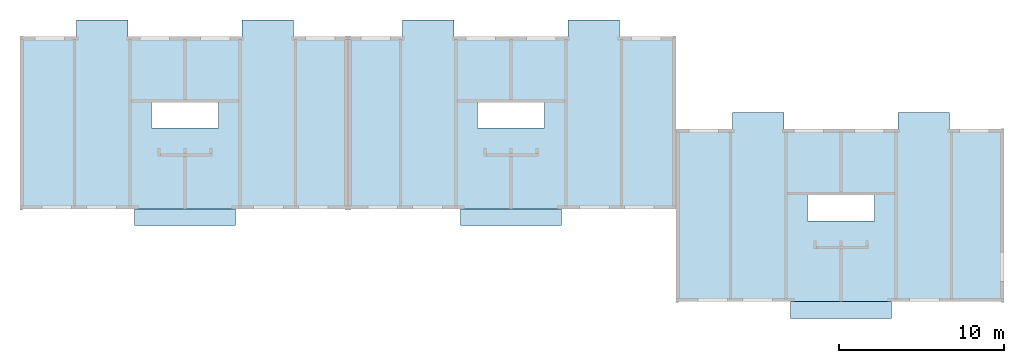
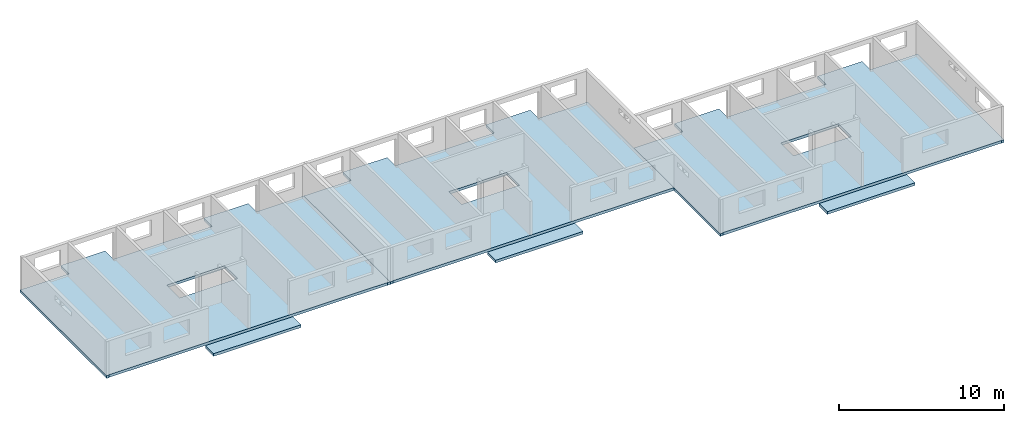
# One storey, part 1 of 9: 6 slabs, 3 openings.
"""IFC2X3 building model written with IfcOpenShell, lengths in millimetres."""

from ifc_helpers import new_model, entity, si_unit, converted_unit, frame, frame_2d, origin, origin_with_axes, place, context, subcontext, project, spatial, polyline, rectangle, outline, extrude, material, layer, layer_set, layer_usage, element, save


model = new_model("IFC2X3")

# Units and contexts
model_context = context("Model", 3, precision=1e-05, world=origin())
plan_context = context("Plan", 3, precision=1e-05, world=origin())
body_context = subcontext(model_context, "Body", "Model", "MODEL_VIEW")
ifc_project = project(units=[si_unit("LENGTHUNIT", "METRE", prefix="MILLI"), converted_unit("PLANEANGLEUNIT", "DEGREE", entity("IfcPlaneAngleMeasure", 0.0174532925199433), si_unit("PLANEANGLEUNIT", "RADIAN"), dimensions=[0, 0, 0, 0, 0, 0, 0]), si_unit("AREAUNIT", "SQUARE_METRE"), si_unit("VOLUMEUNIT", "CUBIC_METRE")], contexts=[model_context, plan_context])

# Building, storey
building_placement = place(None, origin())
building = spatial("IfcBuilding", under=ifc_project, at=building_placement, Name="Bâtiment", CompositionType="ELEMENT")
storey_placement = place(building_placement, frame((0.0, 0.0, 2700.0), z_axis=(0.0, 0.0, 1.0), x_axis=(1.0, 0.0, 0.0)))
storey = spatial("IfcBuildingStorey", under=building, at=storey_placement, Name="r+1", CompositionType="ELEMENT", Elevation=2700.0)

# Slab
ifc_material_1 = material()
ifc_layer_1 = layer(ifc_material_1, 200.0)
ifc_layer_set_1 = layer_set([ifc_layer_1])
ifc_layer_usage_1 = layer_usage(ifc_layer_set_1, "AXIS3", "POSITIVE", 0.0)
slab_1_placement = place(storey_placement, frame((46624.99999999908, -6579.922234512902, -400.0), z_axis=(0.0, 0.0, 1.0), x_axis=(1.0, 0.0, 0.0)))
element("IfcSlab", 1, at=slab_1_placement, inside=storey, material=ifc_layer_usage_1, PredefinedType="FLOOR", context=body_context, shape_type="SweptSolid", body=[
    extrude(rectangle(XDim=6120.000000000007, YDim=1000.085028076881, at=frame_2d((3060.000000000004, 500.0425140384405), x_axis=(1.0, 0.0))), origin_with_axes(), (0.0, 0.0, 1.0), 200.0),
])

# Slab, opening
ifc_material_2 = material()
ifc_layer_2 = layer(ifc_material_2, 200.0)
ifc_layer_set_2 = layer_set([ifc_layer_2])
ifc_layer_usage_2 = layer_usage(ifc_layer_set_2, "AXIS3", "POSITIVE", 0.0)
slab_2_placement = place(storey_placement, frame((39699.99999999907, -5599.999999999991, -200.0), z_axis=(0.0, 0.0, 1.0), x_axis=(1.0, 0.0, 0.0)))
slab_2 = element("IfcSlab", 2, at=slab_2_placement, inside=storey, material=ifc_layer_usage_2, PredefinedType="FLOOR", context=body_context, shape_type="SweptSolid", body=[
    extrude(outline(polyline([(0.0, 0.0), (180.0, 0.0), (180.0, 20.0775509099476), (6925.000003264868, 20.0775509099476), (13045.00000000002, 20.1627935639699), (19669.99999999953, 20.1627935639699), (19669.99999999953, 1.818989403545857e-12), (19849.99999999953, 1.818989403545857e-12), (19849.99999999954, 10490.07776548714), (19669.99999999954, 10490.07776548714), (19669.99999999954, 10470.07776548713), (16539.99999105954, 10470.07768919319), (16539.59862885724, 11470.07760604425), (13439.59868548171, 11470.07760604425), (13440.00000000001, 10470.07775475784), (6530.000000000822, 10470.07768919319), (6530.000094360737, 11470.07760604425), (3430.000000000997, 11470.07775475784), (3430.000000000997, 10470.07776548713), (180.0, 10470.07776548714), (7.275957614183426e-12, 10470.07776548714), (0.0, 0.0)])), origin_with_axes(), (0.0, 0.0, 1.0), 200.0),
])
opening_1_placement = place(slab_2_placement, frame((7959.999453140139, 4920.077765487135, 0.0), z_axis=(0.0, 0.0, 1.0), x_axis=(1.0, 0.0, 0.0)))
element("IfcOpeningElement", 3, at=opening_1_placement, cuts=slab_2, Name="Trémie dans dalle", ObjectType="Opening", context=body_context, shape_type="SweptSolid", body=[
    extrude(rectangle(XDim=4050.0, YDim=1550.0, at=frame_2d((2025.0, 775.0), x_axis=(1.0, 0.0))), origin_with_axes(), (0.0, 0.0, 1.0), 200.0),
])

# Slabs
ifc_material_3 = material()
ifc_layer_3 = layer(ifc_material_3, 200.0)
ifc_layer_set_3 = layer_set([ifc_layer_3])
ifc_layer_usage_3 = layer_usage(ifc_layer_set_3, "AXIS3", "POSITIVE", 0.0)
slab_3_placement = place(storey_placement, frame((6925.0, -979.922234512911, -400.0), z_axis=(0.0, 0.0, 1.0), x_axis=(1.0, 0.0, 0.0)))
element("IfcSlab", 4, at=slab_3_placement, inside=storey, material=ifc_layer_usage_3, PredefinedType="FLOOR", context=body_context, shape_type="SweptSolid", body=[
    extrude(rectangle(XDim=6120.000000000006, YDim=1000.085028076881, at=frame_2d((3060.000000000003, 500.0425140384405), x_axis=(1.0, 0.0))), origin_with_axes(), (0.0, 0.0, 1.0), 200.0),
])
ifc_material_4 = material()
ifc_layer_4 = layer(ifc_material_4, 200.0)
ifc_layer_set_4 = layer_set([ifc_layer_4])
ifc_layer_usage_4 = layer_usage(ifc_layer_set_4, "AXIS3", "POSITIVE", 0.0)
slab_4_placement = place(storey_placement, frame((26655.00054685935, -979.8369918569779, -400.0), z_axis=(0.0, 0.0, 1.0), x_axis=(1.0, 0.0, 0.0)))
element("IfcSlab", 5, at=slab_4_placement, inside=storey, material=ifc_layer_usage_4, PredefinedType="FLOOR", context=body_context, shape_type="SweptSolid", body=[
    extrude(rectangle(XDim=6119.999453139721, YDim=999.9145427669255, at=frame_2d((3059.99972656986, 499.9572713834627), x_axis=(1.0, 0.0))), origin_with_axes(), (0.0, 0.0, 1.0), 200.0),
])

# Slab, opening
ifc_material_5 = material()
ifc_layer_5 = layer(ifc_material_5, 200.0)
ifc_layer_set_5 = layer_set([ifc_layer_5])
ifc_layer_usage_5 = layer_usage(ifc_layer_set_5, "AXIS3", "POSITIVE", 0.0)
slab_5_placement = place(storey_placement, frame((-5.561300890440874e-12, -3.306546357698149e-14, -200.0), z_axis=(0.0, 0.0, 1.0), x_axis=(1.0, 0.0, 0.0)))
slab_5 = element("IfcSlab", 6, at=slab_5_placement, inside=storey, material=ifc_layer_usage_5, PredefinedType="FLOOR", context=body_context, shape_type="SweptSolid", body=[
    extrude(outline(polyline([(0.0, 3.306546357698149e-14), (180.0, 0.0), (180.0, 20.0775509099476), (6925.000003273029, 20.07755090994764), (13045.00000000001, 20.16279356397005), (19669.99999999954, 20.16279356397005), (19669.99999999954, 1.852054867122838e-12), (19849.99999999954, 1.852054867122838e-12), (19849.99999999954, 10490.07776548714), (19669.99999999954, 10490.07776548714), (19669.99999999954, 10470.07776548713), (16539.99999105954, 10470.07768919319), (16539.59862885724, 11470.07760604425), (13439.59868548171, 11470.07760604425), (13440.0, 10470.07775475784), (6530.00000000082, 10470.07768919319), (6530.000094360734, 11470.07760604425), (3430.000000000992, 11470.07775475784), (3430.000000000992, 10470.07776548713), (180.0000000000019, 10470.07776548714), (180.0000000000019, 10490.07776548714), (1.924546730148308e-12, 10490.07776548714), (0.0, 3.306546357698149e-14)])), origin_with_axes(), (0.0, 0.0, 1.0), 200.0),
])
opening_2_placement = place(slab_5_placement, frame((7959.999453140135, 4920.077765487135, 0.0), z_axis=(0.0, 0.0, 1.0), x_axis=(1.0, 0.0, 0.0)))
element("IfcOpeningElement", 7, at=opening_2_placement, cuts=slab_5, Name="Trémie dans dalle", ObjectType="Opening", context=body_context, shape_type="SweptSolid", body=[
    extrude(rectangle(XDim=4050.0, YDim=1550.0, at=frame_2d((2025.0, 775.0), x_axis=(1.0, 0.0))), origin_with_axes(), (0.0, 0.0, 1.0), 200.0),
])

ifc_material_6 = material()
ifc_layer_6 = layer(ifc_material_6, 200.0)
ifc_layer_set_6 = layer_set([ifc_layer_6])
ifc_layer_usage_6 = layer_usage(ifc_layer_set_6, "AXIS3", "POSITIVE", 0.0)
slab_6_placement = place(storey_placement, frame((19849.99999999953, 1.818989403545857e-12, -200.0), z_axis=(0.0, 0.0, 1.0), x_axis=(1.0, 0.0, 0.0)))
slab_6 = element("IfcSlab", 8, at=slab_6_placement, inside=storey, material=ifc_layer_usage_6, PredefinedType="FLOOR", context=body_context, shape_type="SweptSolid", body=[
    extrude(outline(polyline([(0.0, 0.0), (180.0, 0.0), (180.0, 20.16279356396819), (6805.000546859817, 20.16279356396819), (6805.000546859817, 20.0775509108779), (12924.99999999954, 20.07755090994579), (19849.99999999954, 20.07755090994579), (19849.99999999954, 10490.07776548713), (19669.99999999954, 10490.07776548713), (19669.99999999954, 10470.07776548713), (16419.99999999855, 10470.07776548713), (16419.99999999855, 11470.07775475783), (13319.99990563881, 11470.07760604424), (13319.99999999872, 10470.07768919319), (6409.999999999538, 10470.07775475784), (6410.401314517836, 11470.07760604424), (3310.401371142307, 11470.07760604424), (3310.000008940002, 10470.07768919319), (180.0000000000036, 10470.07776548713), (180.0000000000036, 10490.07776548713), (3.637978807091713e-12, 10490.07776548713), (0.0, 0.0)])), origin_with_axes(), (0.0, 0.0, 1.0), 200.0),
])
opening_3_placement = place(slab_6_placement, frame((7840.000546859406, 4920.077765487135, 0.0), z_axis=(0.0, 0.0, 1.0), x_axis=(1.0, 0.0, 0.0)))
element("IfcOpeningElement", 9, at=opening_3_placement, cuts=slab_6, Name="Trémie dans dalle", ObjectType="Opening", context=body_context, shape_type="SweptSolid", body=[
    extrude(rectangle(XDim=4050.0, YDim=1550.0, at=frame_2d((2025.0, 775.0), x_axis=(1.0, 0.0))), origin_with_axes(), (0.0, 0.0, 1.0), 200.0),
])

save(model, "model.ifc")
